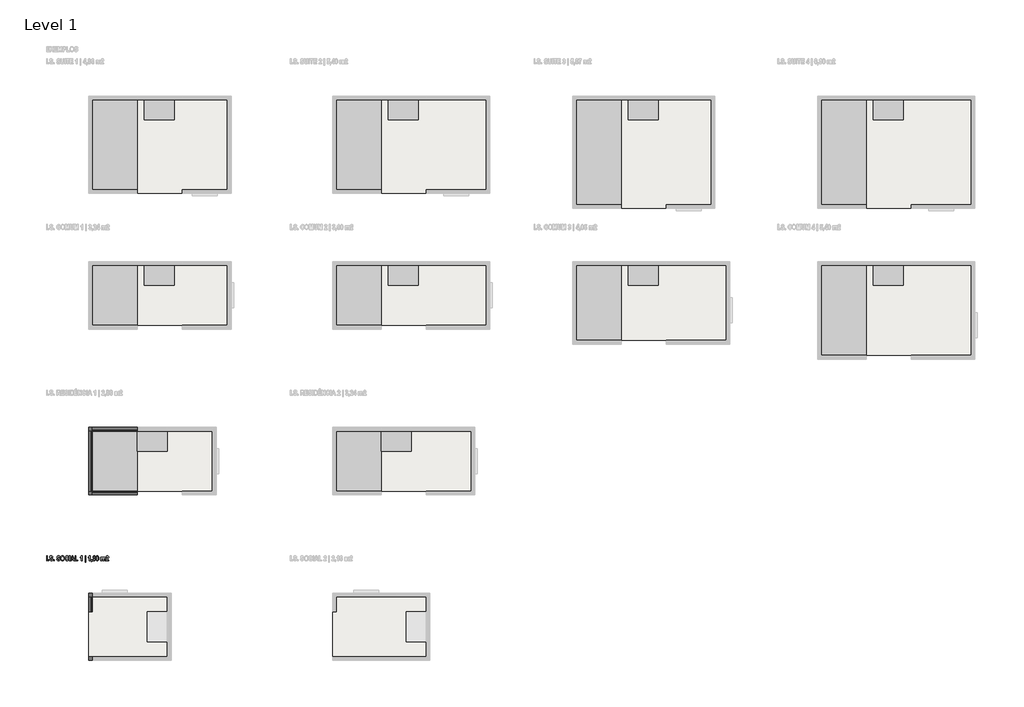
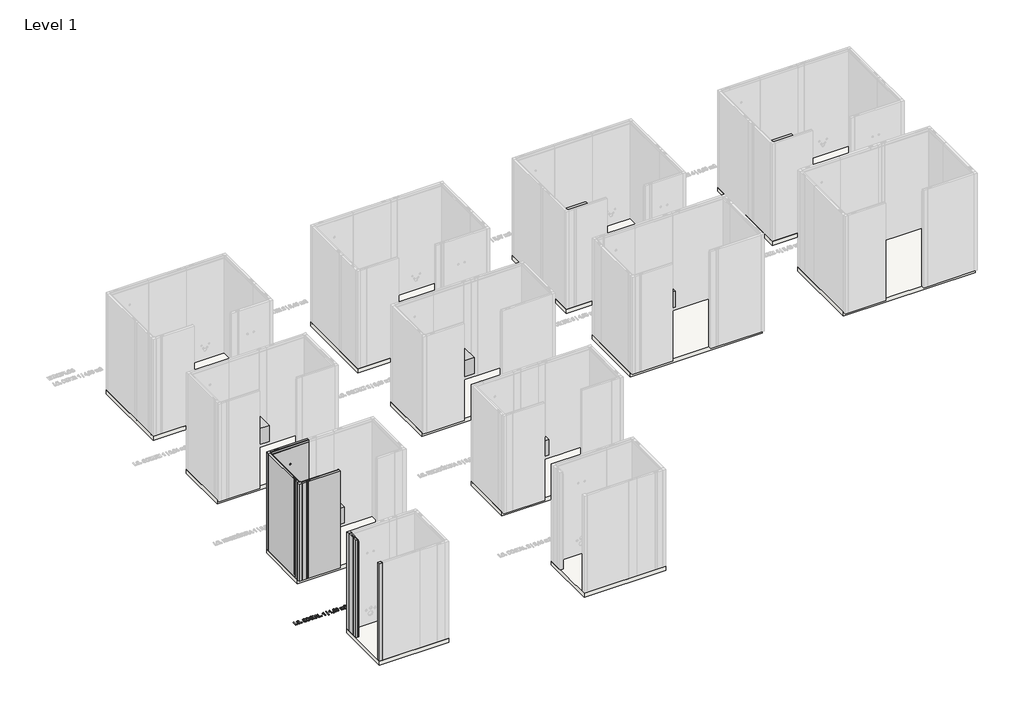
# One storey, part 1 of 10: 29 proxies, 12 slabs.
"""IFC4 building model written with IfcOpenShell, lengths in millimetres."""

from ifc_helpers import new_model, si_unit, frame, origin, origin_with_axes, place, context, project, spatial, polyline, outline, extrude, transform, mapped, element, save
from components import generic_models_87fa6935, generic_models_8d7f3108, generic_models_87e237a0, generic_models_43d2ec2c, generic_models_7c24a650, generic_models_a041baec, generic_models_289941cd, generic_models_76f1f4b3, generic_models_8cb8f1ab, generic_models_21f6bfd0, generic_models_e34c0230, generic_models_33ce3bc0, generic_models_ea0271d4, generic_models_bbaf67e3, generic_models_cdd67697, generic_models_0041a0b1, generic_models_80c7c1ce, generic_models_594d3b66, generic_models_60af4f02, generic_models_8c1d5b6c, generic_models_9a7555cd, generic_models_15d7caf9, generic_models_3be8c8bd, generic_models_1e4ed024

model = new_model("IFC4")

# Units and contexts
model_context = context("Model", 3, world=origin())
ifc_project = project(units=[si_unit("LENGTHUNIT", "METRE", prefix="MILLI")], contexts=[model_context])

# Site, building, storey
site = spatial("IfcSite", under=ifc_project)
building = spatial("IfcBuilding", under=site)
storey = spatial("IfcBuildingStorey", under=building, Name="Level 1", Elevation=0.0)

# Proxies
placement = place(None, origin())
generic_models_shape = generic_models_87fa6935(model_context)
element("IfcBuildingElementProxy", 1, Name="ParedeGeral_Blufab : Parede Geral - Largura 120 cm", ObjectType="ParedeGeral_Blufab : Parede Geral - Largura 120 cm", at=placement, inside=storey, context=model_context, shape_type="MappedRepresentation", body=[
    mapped(generic_models_shape, transform((-8771.3404571, -3398.9908622, 0.0), x_axis=(0.0, 1.0, 0.0), y_axis=(-1.0, 0.0, 0.0), z_axis=(0.0, 0.0, 1.0))),
])
generic_models_2_shape = generic_models_8d7f3108(model_context)
element("IfcBuildingElementProxy", 2, Name="ParedeDuche_Blufab : Parede Duche- Largura 90 cm", ObjectType="ParedeDuche_Blufab : Parede Duche- Largura 90 cm", at=placement, inside=storey, context=model_context, shape_type="MappedRepresentation", body=[
    mapped(generic_models_2_shape, transform((-8771.3404571, -2198.9908622, 0.0), x_axis=(1.0, 0.0, 0.0), y_axis=(0.0, 1.0, 0.0), z_axis=(0.0, 0.0, 1.0))),
])
generic_models_3_shape = generic_models_87e237a0(model_context)
element("IfcBuildingElementProxy", 3, Name="PerfilCanto_Blufab : Parede Geral - Largura 60 cm", ObjectType="PerfilCanto_Blufab : Parede Geral - Largura 60 cm", at=placement, inside=storey, context=model_context, shape_type="MappedRepresentation", body=[
    mapped(generic_models_3_shape, transform((-8844.3404571, -2198.9908622, 0.0), x_axis=(1.0, 0.0, 0.0), y_axis=(0.0, 1.0, 0.0), z_axis=(0.0, 0.0, 1.0))),
])
element("IfcBuildingElementProxy", 4, Name="PerfilCanto_Blufab : Parede Geral - Largura 60 cm", ObjectType="PerfilCanto_Blufab : Parede Geral - Largura 60 cm", at=placement, inside=storey, context=model_context, shape_type="MappedRepresentation", body=[
    mapped(generic_models_3_shape, transform((-8844.3404571, -3471.9908622, 0.0), x_axis=(1.0, 0.0, 0.0), y_axis=(0.0, 1.0, 0.0), z_axis=(0.0, 0.0, 1.0))),
])
element("IfcBuildingElementProxy", 5, Name="PerfilCanto_Blufab : Parede Geral - Largura 60 cm", ObjectType="PerfilCanto_Blufab : Parede Geral - Largura 60 cm", at=placement, inside=storey, context=model_context, shape_type="MappedRepresentation", body=[
    mapped(generic_models_3_shape, transform((-8844.3404571, -5512.1726672, 0.0), x_axis=(1.0, 0.0, 0.0), y_axis=(0.0, 1.0, 0.0), z_axis=(0.0, 0.0, 1.0))),
])
element("IfcBuildingElementProxy", 6, Name="PerfilCanto_Blufab : Parede Geral - Largura 60 cm", ObjectType="PerfilCanto_Blufab : Parede Geral - Largura 60 cm", at=placement, inside=storey, context=model_context, shape_type="MappedRepresentation", body=[
    mapped(generic_models_3_shape, transform((-8844.3404571, -6785.1726672, 0.0), x_axis=(1.0, 0.0, 0.0), y_axis=(0.0, 1.0, 0.0), z_axis=(0.0, 0.0, 1.0))),
])
generic_models_4_shape = generic_models_43d2ec2c(model_context)
element("IfcBuildingElementProxy", 7, Name="ParedeGeral_Blufab : Parede Geral - Largura 30 cm", ObjectType="ParedeGeral_Blufab : Parede Geral - Largura 30 cm", at=placement, inside=storey, context=model_context, shape_type="MappedRepresentation", body=[
    mapped(generic_models_4_shape, transform((-8771.3404571, -5812.1726672, 0.0), x_axis=(0.0, 1.0, 0.0), y_axis=(-1.0, 0.0, 0.0), z_axis=(0.0, 0.0, 1.0))),
])
generic_models_5_shape = generic_models_7c24a650(model_context)
element("IfcBuildingElementProxy", 8, Name="ParedeGeral_Blufab : Parede Geral - Largura 90 cm", ObjectType="ParedeGeral_Blufab : Parede Geral - Largura 90 cm", at=placement, inside=storey, context=model_context, shape_type="MappedRepresentation", body=[
    mapped(generic_models_5_shape, transform((-8771.3404571, -3398.9908622, 0.0), x_axis=(1.0, 0.0, 0.0), y_axis=(0.0, 1.0, 0.0), z_axis=(0.0, 0.0, 1.0))),
])
generic_models_6_shape = generic_models_a041baec(model_context)
element("IfcBuildingElementProxy", 9, Name="Base de duche10 : Base de duche", ObjectType="Base de duche10 : Base de duche", at=placement, inside=storey, context=model_context, shape_type="MappedRepresentation", body=[
    mapped(generic_models_6_shape, transform((-26837.4581743, -17428.4491205, 0.0), x_axis=(1.0, 0.0, 0.0), y_axis=(0.0, 1.0, 0.0), z_axis=(0.0, 0.0, 1.0))),
])
generic_models_7_shape = generic_models_289941cd(model_context)
element("IfcBuildingElementProxy", 10, Name="Movél12 : Movél", ObjectType="Movél12 : Movél", at=placement, inside=storey, context=model_context, shape_type="MappedRepresentation", body=[
    mapped(generic_models_7_shape, transform((-26837.4581743, -17428.4491205, 0.0), x_axis=(1.0, 0.0, 0.0), y_axis=(0.0, 1.0, 0.0), z_axis=(0.0, 0.0, 1.0))),
])
generic_models_8_shape = generic_models_76f1f4b3(model_context)
element("IfcBuildingElementProxy", 11, Name="Base de duche11 : Base de duche", ObjectType="Base de duche11 : Base de duche", at=placement, inside=storey, context=model_context, shape_type="MappedRepresentation", body=[
    mapped(generic_models_8_shape, transform((-21618.0977453, -17599.2038099, 0.0), x_axis=(1.0, 0.0, 0.0), y_axis=(0.0, 1.0, 0.0), z_axis=(0.0, 0.0, 1.0))),
])
generic_models_9_shape = generic_models_8cb8f1ab(model_context)
element("IfcBuildingElementProxy", 12, Name="Base de duche12 : Base de duche", ObjectType="Base de duche12 : Base de duche", at=placement, inside=storey, context=model_context, shape_type="MappedRepresentation", body=[
    mapped(generic_models_9_shape, transform((-16818.0977453, -17599.2038099, 0.0), x_axis=(1.0, 0.0, 0.0), y_axis=(0.0, 1.0, 0.0), z_axis=(0.0, 0.0, 1.0))),
])
element("IfcBuildingElementProxy", 13, Name="Base de duche13 : Base de duche", ObjectType="Base de duche13 : Base de duche", at=placement, inside=storey, context=model_context, shape_type="MappedRepresentation", body=[
    mapped(generic_models_9_shape, transform((-11918.0977453, -17599.2038099, 0.0), x_axis=(1.0, 0.0, 0.0), y_axis=(0.0, 1.0, 0.0), z_axis=(0.0, 0.0, 1.0))),
])
generic_models_10_shape = generic_models_21f6bfd0(model_context)
element("IfcBuildingElementProxy", 14, Name="Movél13 : Movél", ObjectType="Movél13 : Movél", at=placement, inside=storey, context=model_context, shape_type="MappedRepresentation", body=[
    mapped(generic_models_10_shape, transform((-26618.0977453, -17599.2038099, 0.0), x_axis=(1.0, 0.0, 0.0), y_axis=(0.0, 1.0, 0.0), z_axis=(0.0, 0.0, 1.0))),
])
generic_models_11_shape = generic_models_e34c0230(model_context)
element("IfcBuildingElementProxy", 15, Name="Movél14 : Movél", ObjectType="Movél14 : Movél", at=placement, inside=storey, context=model_context, shape_type="MappedRepresentation", body=[
    mapped(generic_models_11_shape, transform((-26818.0977453, -17599.2038099, 0.0), x_axis=(1.0, 0.0, 0.0), y_axis=(0.0, 1.0, 0.0), z_axis=(0.0, 0.0, 1.0))),
])
generic_models_12_shape = generic_models_33ce3bc0(model_context)
element("IfcBuildingElementProxy", 16, Name="Movél15 : Movél", ObjectType="Movél15 : Movél", at=placement, inside=storey, context=model_context, shape_type="MappedRepresentation", body=[
    mapped(generic_models_12_shape, transform((-26918.0977453, -17599.2038099, 0.0), x_axis=(1.0, 0.0, 0.0), y_axis=(0.0, 1.0, 0.0), z_axis=(0.0, 0.0, 1.0))),
])
generic_models_13_shape = generic_models_ea0271d4(model_context)
element("IfcBuildingElementProxy", 17, Name="Base de duche14 : Base de duche", ObjectType="Base de duche14 : Base de duche", at=placement, inside=storey, context=model_context, shape_type="MappedRepresentation", body=[
    mapped(generic_models_13_shape, transform((-26623.3412341, -15327.9119831, 0.0), x_axis=(1.0, 0.0, 0.0), y_axis=(0.0, 1.0, 0.0), z_axis=(0.0, 0.0, 1.0))),
])
generic_models_14_shape = generic_models_bbaf67e3(model_context)
element("IfcBuildingElementProxy", 18, Name="Movél16 : Movél", ObjectType="Movél16 : Movél", at=placement, inside=storey, context=model_context, shape_type="MappedRepresentation", body=[
    mapped(generic_models_14_shape, transform((-26623.3412341, -15327.9119831, 0.0), x_axis=(1.0, 0.0, 0.0), y_axis=(0.0, 1.0, 0.0), z_axis=(0.0, 0.0, 1.0))),
])
generic_models_15_shape = generic_models_cdd67697(model_context)
element("IfcBuildingElementProxy", 19, Name="Base de duche15 : Base de duche", ObjectType="Base de duche15 : Base de duche", at=placement, inside=storey, context=model_context, shape_type="MappedRepresentation", body=[
    mapped(generic_models_15_shape, transform((-26748.3412341, -15327.9119831, 0.0), x_axis=(1.0, 0.0, 0.0), y_axis=(0.0, 1.0, 0.0), z_axis=(0.0, 0.0, 1.0))),
])
generic_models_16_shape = generic_models_0041a0b1(model_context)
element("IfcBuildingElementProxy", 20, Name="Movél17 : Movél", ObjectType="Movél17 : Movél", at=placement, inside=storey, context=model_context, shape_type="MappedRepresentation", body=[
    mapped(generic_models_16_shape, transform((-26748.3412341, -15327.9119831, 0.0), x_axis=(1.0, 0.0, 0.0), y_axis=(0.0, 1.0, 0.0), z_axis=(0.0, 0.0, 1.0))),
])
generic_models_17_shape = generic_models_80c7c1ce(model_context)
element("IfcBuildingElementProxy", 21, Name="Base de duche16 : Base de duche", ObjectType="Base de duche16 : Base de duche", at=placement, inside=storey, context=model_context, shape_type="MappedRepresentation", body=[
    mapped(generic_models_17_shape, transform((-26948.3412341, -15327.9119831, 0.0), x_axis=(1.0, 0.0, 0.0), y_axis=(0.0, 1.0, 0.0), z_axis=(0.0, 0.0, 1.0))),
])
generic_models_18_shape = generic_models_594d3b66(model_context)
element("IfcBuildingElementProxy", 22, Name="Movél18 : Movél", ObjectType="Movél18 : Movél", at=placement, inside=storey, context=model_context, shape_type="MappedRepresentation", body=[
    mapped(generic_models_18_shape, transform((-26948.3412341, -15327.9119831, 0.0), x_axis=(1.0, 0.0, 0.0), y_axis=(0.0, 1.0, 0.0), z_axis=(0.0, 0.0, 1.0))),
])
generic_models_19_shape = generic_models_60af4f02(model_context)
element("IfcBuildingElementProxy", 23, Name="Base de duche17 : Base de duche", ObjectType="Base de duche17 : Base de duche", at=placement, inside=storey, context=model_context, shape_type="MappedRepresentation", body=[
    mapped(generic_models_19_shape, transform((-27048.3412341, -15327.9119831, 0.0), x_axis=(1.0, 0.0, 0.0), y_axis=(0.0, 1.0, 0.0), z_axis=(0.0, 0.0, 1.0))),
])
generic_models_20_shape = generic_models_8c1d5b6c(model_context)
element("IfcBuildingElementProxy", 24, Name="Movél19 : Movél", ObjectType="Movél19 : Movél", at=placement, inside=storey, context=model_context, shape_type="MappedRepresentation", body=[
    mapped(generic_models_20_shape, transform((-27048.3412341, -15327.9119831, 0.0), x_axis=(1.0, 0.0, 0.0), y_axis=(0.0, 1.0, 0.0), z_axis=(0.0, 0.0, 1.0))),
])
generic_models_21_shape = generic_models_9a7555cd(model_context)
element("IfcBuildingElementProxy", 25, Name="Base de duche18 : Base de duche", ObjectType="Base de duche18 : Base de duche", at=placement, inside=storey, context=model_context, shape_type="MappedRepresentation", body=[
    mapped(generic_models_21_shape, transform((-26726.2228421, -13279.4283045, 0.0), x_axis=(1.0, 0.0, 0.0), y_axis=(0.0, 1.0, 0.0), z_axis=(0.0, 0.0, 1.0))),
])
generic_models_22_shape = generic_models_15d7caf9(model_context)
element("IfcBuildingElementProxy", 26, Name="Movél20 : Movél", ObjectType="Movél20 : Movél", at=placement, inside=storey, context=model_context, shape_type="MappedRepresentation", body=[
    mapped(generic_models_22_shape, transform((-26862.8867028, -13279.4283045, 0.0), x_axis=(1.0, 0.0, 0.0), y_axis=(0.0, 1.0, 0.0), z_axis=(0.0, 0.0, 1.0))),
])
generic_models_23_shape = generic_models_3be8c8bd(model_context)
element("IfcBuildingElementProxy", 27, Name="Base de duche19 : Base de duche", ObjectType="Base de duche19 : Base de duche", at=placement, inside=storey, context=model_context, shape_type="MappedRepresentation", body=[
    mapped(generic_models_23_shape, transform((-26851.2228421, -13279.4283045, 0.0), x_axis=(1.0, 0.0, 0.0), y_axis=(0.0, 1.0, 0.0), z_axis=(0.0, 0.0, 1.0))),
])
generic_models_24_shape = generic_models_1e4ed024(model_context)
element("IfcBuildingElementProxy", 28, Name="Movél21 : Movél", ObjectType="Movél21 : Movél", at=placement, inside=storey, context=model_context, shape_type="MappedRepresentation", body=[
    mapped(generic_models_24_shape, transform((-26987.8867028, -13279.4283045, 0.0), x_axis=(1.0, 0.0, 0.0), y_axis=(0.0, 1.0, 0.0), z_axis=(0.0, 0.0, 1.0))),
])
element("IfcBuildingElementProxy", 29, Name="24\" Arial", ObjectType="24\" Arial", at=placement, inside=storey, context=model_context, shape_type="SweptSolid", body=[
    extrude(outline(polyline([(-9690.0185436, -4795.1819763), (-9690.0185436, -4694.4633726), (-9673.7736075, -4694.4633726), (-9673.7736075, -4795.1819763), (-9690.0185436, -4795.1819763)])), origin_with_axes(), (0.0, 0.0, 1.0), 10.0),
    extrude(outline(polyline([(-9657.5286714, -4795.1819763), (-9657.5286714, -4775.688053), (-9641.2837353, -4775.688053), (-9641.2837353, -4795.1819763), (-9657.5286714, -4795.1819763)])), origin_with_axes(), (0.0, 0.0, 1.0), 10.0),
    extrude(outline(polyline([(-9628.2877864, -4762.6921041), (-9612.0428504, -4761.0676105), (-9606.1857894, -4774.4696828), (-9594.0972725, -4778.9370402), (-9582.2435457, -4775.1803988), (-9577.9284846, -4765.8903259), (-9579.4514473, -4760.3568946), (-9584.0964837, -4756.6002531), (-9598.9707533, -4751.396797), (-9614.3653686, -4744.2896375), (-9622.14517, -4734.3396141), (-9625.0387992, -4721.0644554), (-9621.2948491, -4706.2028772), (-9610.9640851, -4696.2147797), (-9594.6810749, -4692.838879), (-9581.7295458, -4694.7330639), (-9571.9635471, -4700.4156187), (-9565.7130541, -4709.6200248), (-9563.3080421, -4722.0797639), (-9579.5529782, -4723.7042575), (-9584.2995454, -4713.5892465), (-9594.7318403, -4710.7083087), (-9605.1387525, -4713.4496416), (-9608.7938631, -4720.2522086), (-9605.9256166, -4726.9786275), (-9591.3559396, -4733.4004538), (-9573.3342136, -4741.2944774), (-9564.6787086, -4751.4348711), (-9561.6835485, -4766.5248937), (-9563.6856099, -4778.3215094), (-9569.6917943, -4788.0748168), (-9579.9622744, -4794.6235566), (-9594.757223, -4796.8064699), (-9608.1513632, -4794.6743221), (-9618.2045038, -4788.2778785), (-9624.9166449, -4777.6171392), (-9628.2877864, -4762.6921041)])), origin_with_axes(), (0.0, 0.0, 1.0), 10.0),
    extrude(outline(polyline([(-9548.6875996, -4795.1819763), (-9548.6875996, -4775.688053), (-9532.4426635, -4775.688053), (-9532.4426635, -4795.1819763), (-9548.6875996, -4795.1819763)])), origin_with_axes(), (0.0, 0.0, 1.0), 10.0),
    extrude(outline(polyline([(-9486.9568425, -4762.6921041), (-9470.7119064, -4761.0676105), (-9464.8548454, -4774.4696828), (-9452.7663285, -4778.9370402), (-9440.9126017, -4775.1803988), (-9436.5975406, -4765.8903259), (-9438.1205033, -4760.3568946), (-9442.7655398, -4756.6002531), (-9457.6398094, -4751.396797), (-9473.0344246, -4744.2896375), (-9480.814226, -4734.3396141), (-9483.7078552, -4721.0644554), (-9479.9639051, -4706.2028772), (-9469.6331411, -4696.2147797), (-9453.3501309, -4692.838879), (-9440.3986018, -4694.7330639), (-9430.6326031, -4700.4156187), (-9424.3821101, -4709.6200248), (-9421.9770981, -4722.0797639), (-9438.2220342, -4723.7042575), (-9442.9686015, -4713.5892465), (-9453.4008964, -4710.7083087), (-9463.8078085, -4713.4496416), (-9467.4629192, -4720.2522086), (-9464.5946726, -4726.9786275), (-9450.0249956, -4733.4004538), (-9432.0032696, -4741.2944774), (-9423.3477646, -4751.4348711), (-9420.3526045, -4766.5248937), (-9422.354666, -4778.3215094), (-9428.3608503, -4788.0748168), (-9438.6313304, -4794.6235566), (-9453.4262791, -4796.8064699), (-9466.8204192, -4794.6743221), (-9476.8735599, -4788.2778785), (-9483.5857009, -4777.6171392), (-9486.9568425, -4762.6921041)])), origin_with_axes(), (0.0, 0.0, 1.0), 10.0),
    extrude(outline(polyline([(-9410.6056428, -4745.4318595), (-9405.3133473, -4715.848308), (-9391.4924602, -4698.5372979), (-9382.0564368, -4694.2634837), (-9370.8055494, -4692.838879), (-9354.8207861, -4696.2179526), (-9342.0977014, -4706.3551734), (-9333.7785174, -4722.7301959), (-9331.005456, -4744.8226744), (-9333.943505, -4767.2990665), (-9342.757652, -4784.2674099), (-9354.90328, -4793.6717049), (-9370.7294013, -4796.8064699), (-9386.6697448, -4793.7034333), (-9398.8534469, -4784.3943234), (-9407.6675939, -4767.5592393), (-9410.6056428, -4745.4318595)]), holes=[polyline([(-9394.3607068, -4744.7465263), (-9392.660065, -4759.7128082), (-9387.5581398, -4770.3957574), (-9379.943326, -4776.8017195), (-9370.7040186, -4778.9370402), (-9361.4425013, -4776.8175837), (-9353.9133542, -4770.4592142), (-9348.9161326, -4759.7096354), (-9347.2503921, -4744.416551), (-9348.8717129, -4729.4312321), (-9353.7356752, -4718.9449989), (-9361.2204026, -4712.7674812), (-9370.7040186, -4710.7083087), (-9380.2130173, -4712.7865183), (-9387.7738928, -4719.021147), (-9392.7140033, -4729.6089111), (-9394.3607068, -4744.7465263)])]), origin_with_axes(), (0.0, 0.0, 1.0), 10.0),
    extrude(outline(polyline([(-9266.0257117, -4757.8186233), (-9249.7807756, -4764.3165977), (-9254.78117, -4778.9433859), (-9262.2690702, -4789.0139771), (-9272.0096862, -4794.8583467), (-9283.7682278, -4796.8064699), (-9298.2934851, -4793.7034333), (-9309.7855082, -4784.3943234), (-9318.3902478, -4767.5528936), (-9321.2584944, -4745.7110694), (-9318.3648651, -4722.7904799), (-9309.6839774, -4705.4540871), (-9297.9000531, -4695.992681), (-9282.6513884, -4692.838879), (-9269.9473408, -4695.1931256), (-9259.5023545, -4702.2558653), (-9249.7807756, -4722.0797639), (-9266.0257117, -4726.9532447), (-9272.4729207, -4714.8964562), (-9283.8189932, -4710.7083087), (-9292.3222019, -4712.6659504), (-9299.0993862, -4718.5388755), (-9303.5350153, -4728.9235778), (-9305.0135583, -4744.416551), (-9303.5921264, -4760.4235242), (-9299.3278306, -4771.0303252), (-9292.7917821, -4776.9603615), (-9284.5550919, -4778.9370402), (-9273.0313403, -4773.8731891), (-9266.0257117, -4757.8186233)])), origin_with_axes(), (0.0, 0.0, 1.0), 10.0),
    extrude(outline(polyline([(-9235.1603331, -4795.1819763), (-9235.1603331, -4694.4633726), (-9218.915397, -4694.4633726), (-9218.915397, -4795.1819763), (-9235.1603331, -4795.1819763)])), origin_with_axes(), (0.0, 0.0, 1.0), 10.0),
    extrude(outline(polyline([(-9127.9437549, -4795.1819763), (-9144.8994069, -4795.1819763), (-9152.5903689, -4770.8145722), (-9186.146315, -4770.8145722), (-9193.8372769, -4795.1819763), (-9210.792929, -4795.1819763), (-9177.313131, -4694.4633726), (-9161.4235529, -4694.4633726), (-9127.9437549, -4795.1819763)]), holes=[polyline([(-9157.7430595, -4754.5696361), (-9169.3683419, -4717.6631719), (-9180.9936243, -4754.5696361), (-9157.7430595, -4754.5696361)])]), origin_with_axes(), (0.0, 0.0, 1.0), 10.0),
    extrude(outline(polyline([(-9119.8212869, -4795.1819763), (-9119.8212869, -4694.4633726), (-9103.5763508, -4694.4633726), (-9103.5763508, -4778.9370402), (-9061.3395169, -4778.9370402), (-9061.3395169, -4795.1819763), (-9119.8212869, -4795.1819763)])), origin_with_axes(), (0.0, 0.0, 1.0), 10.0),
    extrude(outline(polyline([(-8980.1148365, -4795.1819763), (-8996.3597726, -4795.1819763), (-8996.3597726, -4722.0797639), (-9015.8536959, -4736.7002064), (-9015.8536959, -4718.8307767), (-9002.3881668, -4709.6676174), (-8992.704662, -4694.4633726), (-8980.1148365, -4694.4633726), (-8980.1148365, -4795.1819763)])), origin_with_axes(), (0.0, 0.0, 1.0), 10.0),
    extrude(outline(polyline([(-8920.008573, -4824.4228613), (-8920.008573, -4692.838879), (-8907.0126241, -4692.838879), (-8907.0126241, -4824.4228613), (-8920.008573, -4824.4228613)])), origin_with_axes(), (0.0, 0.0, 1.0), 10.0),
    extrude(outline(polyline([(-8819.2899692, -4795.1819763), (-8835.5349053, -4795.1819763), (-8835.5349053, -4722.0797639), (-8855.0288286, -4736.7002064), (-8855.0288286, -4718.8307767), (-8841.5632995, -4709.6676174), (-8831.8797947, -4694.4633726), (-8819.2899692, -4694.4633726), (-8819.2899692, -4795.1819763)])), origin_with_axes(), (0.0, 0.0, 1.0), 10.0),
    extrude(outline(polyline([(-8793.2980715, -4775.688053), (-8777.0531354, -4775.688053), (-8777.0531354, -4789.648545), (-8779.9467646, -4807.2895302), (-8791.8512568, -4817.9248868), (-8794.9225651, -4810.0054805), (-8787.5742698, -4804.7131849), (-8785.1756034, -4795.1819763), (-8793.2980715, -4795.1819763), (-8793.2980715, -4775.688053)])), origin_with_axes(), (0.0, 0.0, 1.0), 10.0),
    extrude(outline(polyline([(-8749.6651884, -4741.0406503), (-8759.2217797, -4732.8293427), (-8762.4326929, -4720.3283567), (-8760.7225326, -4709.6866545), (-8755.5920518, -4701.4690013), (-8747.5679418, -4696.2147797), (-8737.1768938, -4694.4633726), (-8726.3765496, -4696.3353476), (-8718.4952173, -4701.9512728), (-8713.6788476, -4710.2514198), (-8712.073391, -4720.1760605), (-8715.5381313, -4732.8674168), (-8724.9931917, -4741.0406503), (-8714.065934, -4750.6226243), (-8710.4488974, -4765.8141778), (-8713.8755636, -4782.1987188), (-8723.3306241, -4793.0498285), (-8736.8723013, -4796.8064699), (-8747.6472628, -4794.7504702), (-8756.3662246, -4788.582471), (-8762.134446, -4778.9306946), (-8764.0571865, -4766.4233629), (-8760.3386191, -4750.9272168), (-8749.6651884, -4741.0406503)]), holes=[polyline([(-8746.1877568, -4721.9782331), (-8743.4464238, -4730.4814418), (-8736.5169433, -4733.4512192), (-8729.4732405, -4730.4814418), (-8726.6938335, -4721.9782331), (-8729.4351665, -4713.678086), (-8736.3138816, -4710.7083087), (-8743.4083498, -4713.7034687), (-8746.1877568, -4721.9782331)]), polyline([(-8747.8122504, -4764.4435113), (-8744.664794, -4776.3733863), (-8737.1007457, -4780.5615338), (-8729.6889936, -4776.5637566), (-8726.6938335, -4764.5704249), (-8729.7524504, -4753.6939325), (-8737.2784247, -4749.6961553), (-8744.7536335, -4753.7320066), (-8747.8122504, -4764.4435113)])]), origin_with_axes(), (0.0, 0.0, 1.0), 10.0),
    extrude(outline(polyline([(-8673.9231739, -4694.4633726), (-8663.0657186, -4697.3094092), (-8654.5053987, -4705.8475192), (-8648.9465847, -4721.4927887), (-8647.0936467, -4745.660304), (-8648.9465847, -4769.7897452), (-8654.5053987, -4785.4223233), (-8663.0530272, -4793.9604333), (-8673.8724085, -4796.8064699), (-8684.7298638, -4793.985816), (-8693.2901837, -4785.5238542), (-8698.8489977, -4769.8658933), (-8700.7019358, -4745.4572423), (-8698.8489977, -4721.4420233), (-8693.2901837, -4705.8475192), (-8684.7425552, -4697.3094092), (-8673.9231739, -4694.4633726)]), holes=[polyline([(-8673.8977912, -4710.7083087), (-8681.5887531, -4716.8001597), (-8684.4569997, -4745.660304), (-8681.5887531, -4774.4950655), (-8673.8977912, -4780.5615338), (-8666.1687552, -4774.4696828), (-8663.3385827, -4745.660304), (-8666.1687552, -4716.8001597), (-8673.8977912, -4710.7083087)])]), origin_with_axes(), (0.0, 0.0, 1.0), 10.0),
    extrude(outline(polyline([(-8601.6078256, -4722.0797639), (-8586.9873831, -4722.0797639), (-8586.9873831, -4731.9790218), (-8578.433409, -4723.3108255), (-8568.3818548, -4720.4552703), (-8558.4445228, -4723.3235168), (-8551.5531163, -4732.0044046), (-8543.0499075, -4723.3235168), (-8533.379094, -4720.4552703), (-8522.8833424, -4723.3742823), (-8516.1823062, -4731.7378861), (-8513.8851707, -4748.4524023), (-8513.8851707, -4795.1819763), (-8530.1301068, -4795.1819763), (-8530.1301068, -4754.4173398), (-8531.9957362, -4740.2284035), (-8538.2525749, -4736.7002064), (-8546.5019565, -4741.637144), (-8549.6240301, -4760.940697), (-8549.6240301, -4795.1819763), (-8565.8689662, -4795.1819763), (-8565.8689662, -4756.0925989), (-8567.1127191, -4741.1421811), (-8573.7883726, -4736.7002064), (-8580.0071372, -4738.9846505), (-8584.1064452, -4745.660304), (-8585.3628895, -4760.5345736), (-8585.3628895, -4795.1819763), (-8601.6078256, -4795.1819763), (-8601.6078256, -4722.0797639)])), origin_with_axes(), (0.0, 0.0, 1.0), 10.0),
    extrude(outline(polyline([(-8448.9054264, -4778.9370402), (-8448.9054264, -4795.1819763), (-8504.1382091, -4795.1819763), (-8498.757074, -4775.9799542), (-8481.2937677, -4752.0821303), (-8468.6531768, -4736.1417867), (-8465.1503625, -4723.9327019), (-8467.9805349, -4714.0461354), (-8475.4049784, -4710.7083087), (-8483.1593971, -4714.3634193), (-8486.2687794, -4725.3287511), (-8502.5137155, -4723.7042575), (-8499.6518146, -4710.6099506), (-8493.9597413, -4701.532458), (-8485.6786313, -4696.2306439), (-8475.0496204, -4694.4633726), (-8463.6749923, -4696.6082118), (-8455.4922403, -4703.0427294), (-8450.5521299, -4712.2503084), (-8448.9054264, -4722.7143317), (-8450.5806854, -4734.8853424), (-8455.7460674, -4746.7517606), (-8467.3840412, -4761.9813882), (-8476.9913979, -4773.5051397), (-8480.2530765, -4778.9370402), (-8448.9054264, -4778.9370402)])), origin_with_axes(), (0.0, 0.0, 1.0), 10.0),
])

# Slabs
element("IfcSlab", 30, ObjectType="Generic - 10", at=placement, inside=storey, context=model_context, shape_type="SweptSolid", body=[
    extrude(outline(polyline([(-5998.3404571, 4500.3727477), (-5998.3404571, 2554.3727477), (-8844.3404571, 2554.3727477), (-8844.3404571, 4500.3727477), (-5998.3404571, 4500.3727477)])), frame((0.0, 0.0, -100.0), z_axis=(0.0, 0.0, 1.0), x_axis=(1.0, 0.0, 0.0)), (0.0, 0.0, 1.0), 100.0),
])
element("IfcSlab", 31, ObjectType="Generic - 10", at=placement, inside=storey, context=model_context, shape_type="SweptSolid", body=[
    extrude(outline(polyline([(-823.3404571, 4500.3727477), (-823.3404571, 2554.3727477), (-3969.3404571, 2554.3727477), (-3969.3404571, 4500.3727477), (-823.3404571, 4500.3727477)])), frame((0.0, 0.0, -100.0), z_axis=(0.0, 0.0, 1.0), x_axis=(1.0, 0.0, 0.0)), (0.0, 0.0, 1.0), 100.0),
])
element("IfcSlab", 32, ObjectType="Generic - 10", at=placement, inside=storey, context=model_context, shape_type="SweptSolid", body=[
    extrude(outline(polyline([(3676.6595429, 4500.3727477), (3676.6595429, 2254.3727477), (830.6595429, 2254.3727477), (830.6595429, 4500.3727477), (3676.6595429, 4500.3727477)])), frame((0.0, 0.0, -100.0), z_axis=(0.0, 0.0, 1.0), x_axis=(1.0, 0.0, 0.0)), (0.0, 0.0, 1.0), 100.0),
])
element("IfcSlab", 33, ObjectType="Generic - 10", at=placement, inside=storey, context=model_context, shape_type="SweptSolid", body=[
    extrude(outline(polyline([(8876.6595429, 4500.3727477), (8876.6595429, 2254.3727477), (5730.6595429, 2254.3727477), (5730.6595429, 4500.3727477), (8876.6595429, 4500.3727477)])), frame((0.0, 0.0, -100.0), z_axis=(0.0, 0.0, 1.0), x_axis=(1.0, 0.0, 0.0)), (0.0, 0.0, 1.0), 100.0),
])
element("IfcSlab", 34, ObjectType="Generic - 10", at=placement, inside=storey, context=model_context, shape_type="SweptSolid", body=[
    extrude(outline(polyline([(-5998.3404571, 1187.1909428), (-5998.3404571, -85.8090572), (-8844.3404571, -85.8090572), (-8844.3404571, 1187.1909428), (-5998.3404571, 1187.1909428)])), frame((0.0, 0.0, -100.0), z_axis=(0.0, 0.0, 1.0), x_axis=(1.0, 0.0, 0.0)), (0.0, 0.0, 1.0), 100.0),
])
element("IfcSlab", 35, ObjectType="Generic - 10", at=placement, inside=storey, context=model_context, shape_type="SweptSolid", body=[
    extrude(outline(polyline([(-823.3404571, 1187.1909428), (-823.3404571, -85.8090572), (-3969.3404571, -85.8090572), (-3969.3404571, 1187.1909428), (-823.3404571, 1187.1909428)])), frame((0.0, 0.0, -100.0), z_axis=(0.0, 0.0, 1.0), x_axis=(1.0, 0.0, 0.0)), (0.0, 0.0, 1.0), 100.0),
])
element("IfcSlab", 36, ObjectType="Generic - 10", at=placement, inside=storey, context=model_context, shape_type="SweptSolid", body=[
    extrude(outline(polyline([(3976.6595429, 1187.1909428), (3976.6595429, -385.8090572), (830.6595429, -385.8090572), (830.6595429, 1187.1909428), (3976.6595429, 1187.1909428)])), frame((0.0, 0.0, -100.0), z_axis=(0.0, 0.0, 1.0), x_axis=(1.0, 0.0, 0.0)), (0.0, 0.0, 1.0), 100.0),
])
element("IfcSlab", 37, ObjectType="Generic - 10", at=placement, inside=storey, context=model_context, shape_type="SweptSolid", body=[
    extrude(outline(polyline([(8876.6595429, 1187.1909428), (8876.6595429, -685.8090572), (5730.6595429, -685.8090572), (5730.6595429, 1187.1909428), (8876.6595429, 1187.1909428)])), frame((0.0, 0.0, -100.0), z_axis=(0.0, 0.0, 1.0), x_axis=(1.0, 0.0, 0.0)), (0.0, 0.0, 1.0), 100.0),
])
element("IfcSlab", 38, ObjectType="Generic - 10", at=placement, inside=storey, context=model_context, shape_type="SweptSolid", body=[
    extrude(outline(polyline([(-6298.3404571, -2125.9908622), (-6298.3404571, -3398.9908622), (-8844.3404571, -3398.9908622), (-8844.3404571, -2125.9908622), (-6298.3404571, -2125.9908622)])), frame((0.0, 0.0, -100.0), z_axis=(0.0, 0.0, 1.0), x_axis=(1.0, 0.0, 0.0)), (0.0, 0.0, 1.0), 100.0),
])
element("IfcSlab", 39, ObjectType="Generic - 10", at=placement, inside=storey, context=model_context, shape_type="SweptSolid", body=[
    extrude(outline(polyline([(-1196.3404571, -2125.9908622), (-1196.3404571, -3398.9908622), (-3969.3404571, -3398.9908622), (-3969.3404571, -2125.9908622), (-1196.3404571, -2125.9908622)])), frame((0.0, 0.0, -100.0), z_axis=(0.0, 0.0, 1.0), x_axis=(1.0, 0.0, 0.0)), (0.0, 0.0, 1.0), 100.0),
])
element("IfcSlab", 40, ObjectType="Generic - 10", at=placement, inside=storey, context=model_context, shape_type="SweptSolid", body=[
    extrude(outline(polyline([(-7198.3404571, -5439.1726672), (-7198.3404571, -6785.1726672), (-8844.3404571, -6785.1726672), (-8844.3404571, -5439.1726672), (-7198.3404571, -5439.1726672)])), frame((0.0, 0.0, -100.0), z_axis=(0.0, 0.0, 1.0), x_axis=(1.0, 0.0, 0.0)), (0.0, 0.0, 1.0), 100.0),
])
element("IfcSlab", 41, ObjectType="Generic - 10", at=placement, inside=storey, context=model_context, shape_type="SweptSolid", body=[
    extrude(outline(polyline([(-2023.3404571, -5439.1726672), (-2023.3404571, -6785.1726672), (-3969.3404571, -6785.1726672), (-3969.3404571, -5439.1726672), (-2023.3404571, -5439.1726672)])), frame((0.0, 0.0, -100.0), z_axis=(0.0, 0.0, 1.0), x_axis=(1.0, 0.0, 0.0)), (0.0, 0.0, 1.0), 100.0),
])

save(model, "model.ifc")
